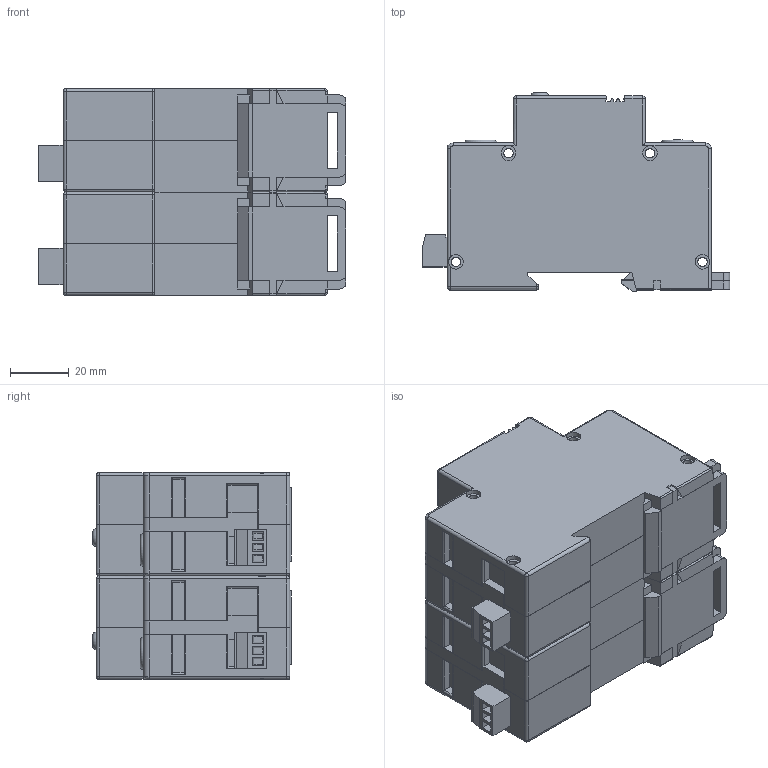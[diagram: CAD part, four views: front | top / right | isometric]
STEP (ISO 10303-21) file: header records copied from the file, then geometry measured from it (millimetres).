
FILE_DESCRIPTION(/* description */ (''),/* implementation_level */ '2;1');
FILE_NAME(/* name */ 'HLA50 2+0 S.stp',/* time_stamp */ '2024-08-02T09:27:03+02:00',/* author */ ('miko'),/* organization */ (''),/* preprocessor_version */ 'ST-DEVELOPER v20',/* originating_system */ 'Autodesk Inventor 2024',/* authorisation */ '');
FILE_SCHEMA (('AUTOMOTIVE_DESIGN { 1 0 10303 214 3 1 1 }'));
Length unit declared in the file: millimetre
Products named in the file (6): HLA50 2+0 S; HLA50 S; HLA50 S_1; DIN 7985 (H) - M6x10-H; 15EDGK - 3.81 3P (RAL 2012); 15EDGRC - 3.81 3P (RAL 2012) (OBRÁCENÉ VÝV
ODY)
Assembly tree (7 placements, depth 3):
  HLA50 2+0 S
    HLA50 S  x2
      HLA50 S_1
      DIN 7985 (H) - M6x10-H
      15EDGK - 3.81 3P (RAL 2012)
      15EDGRC - 3.81 3P (RAL 2012) (OBRÁCENÉ VÝV
ODY)
Bounding box: 104.8 x 67.7 x 70.4 mm (x, y, z)
Volume: 350945.1 mm3; surface area: 57932.3 mm2
Topology: 10 solids, 18 shells, 1366 faces, 3560 edges, 2280 vertices
Faces by surface type: plane 986, cylinder 256, cone 70, torus 22, sphere 16, bspline 16
Full cylindrical faces by diameter (mm): 0.968 x6, 1 x12, 1.9 x6, 2 x6, 2.5 x6, 3.2 x8, 5 x16, 5.5 x4, 6 x4, 8 x4
Entity records: 19904 total; most frequent: CARTESIAN_POINT 3555, ORIENTED_EDGE 3352, DIRECTION 3303, EDGE_CURVE 1676, LINE 1297, VECTOR 1297, VERTEX_POINT 1071, AXIS2_PLACEMENT_3D 1003
